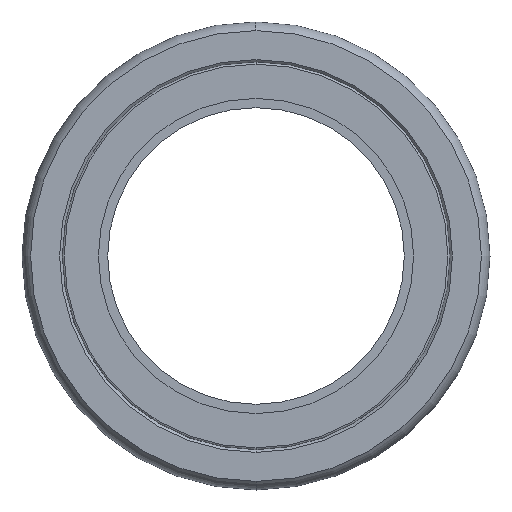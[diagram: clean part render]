
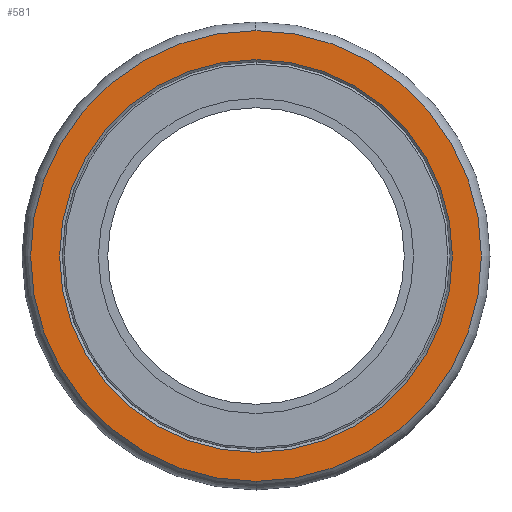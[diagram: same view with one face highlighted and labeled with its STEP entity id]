
A CAD part, front view. The second image highlights one B-rep face of the part: STEP entity #581.
In plain terms, the highlighted planar face has unit normal (0, -1, 0).
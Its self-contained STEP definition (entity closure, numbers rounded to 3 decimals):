
#147=CARTESIAN_POINT('',(0.,2.05,0.));
#148=DIRECTION('',(0.,-1.,0.));
#149=DIRECTION('',(0.,0.,1.));
#150=AXIS2_PLACEMENT_3D('',#147,#148,#149);
#167=CARTESIAN_POINT('',(0.,2.05,0.));
#168=DIRECTION('',(0.,-1.,0.));
#169=DIRECTION('',(0.,0.,-1.));
#170=AXIS2_PLACEMENT_3D('',#167,#168,#169);
#172=CARTESIAN_POINT('',(0.,2.05,0.));
#173=DIRECTION('',(0.,-1.,0.));
#174=DIRECTION('',(0.,0.,1.));
#175=AXIS2_PLACEMENT_3D('',#172,#173,#174);
#258=CARTESIAN_POINT('',(0.,2.05,0.));
#259=DIRECTION('',(0.,-1.,0.));
#260=DIRECTION('',(0.,0.,-1.));
#261=AXIS2_PLACEMENT_3D('',#258,#259,#260);
#300=CARTESIAN_POINT('',(0.,2.05,24.314));
#301=CARTESIAN_POINT('',(0.,2.05,-24.314));
#302=VERTEX_POINT('',#300);
#303=VERTEX_POINT('',#301);
#304=CARTESIAN_POINT('',(0.,2.05,21.186));
#305=CARTESIAN_POINT('',(0.,2.05,-21.186));
#306=VERTEX_POINT('',#304);
#307=VERTEX_POINT('',#305);
#566=CARTESIAN_POINT('',(0.,2.05,0.));
#567=DIRECTION('',(0.,-1.,0.));
#568=DIRECTION('',(-1.,0.,0.));
#569=AXIS2_PLACEMENT_3D('',#566,#567,#568);
#570=PLANE('',#569);
#571=ORIENTED_EDGE('',*,*,#534,.F.);
#572=ORIENTED_EDGE('',*,*,#554,.F.);
#573=EDGE_LOOP('',(#571,#572));
#574=FACE_OUTER_BOUND('',#573,.F.);
#576=ORIENTED_EDGE('',*,*,#575,.T.);
#578=ORIENTED_EDGE('',*,*,#577,.T.);
#579=EDGE_LOOP('',(#576,#578));
#580=FACE_BOUND('',#579,.F.);
#151=CIRCLE('',#150,24.314);
#171=CIRCLE('',#170,24.314);
#176=CIRCLE('',#175,21.186);
#262=CIRCLE('',#261,21.186);
#534=EDGE_CURVE('',#302,#303,#151,.T.);
#554=EDGE_CURVE('',#303,#302,#171,.T.);
#575=EDGE_CURVE('',#306,#307,#176,.T.);
#577=EDGE_CURVE('',#307,#306,#262,.T.);
#581=ADVANCED_FACE('',(#574,#580),#570,.T.);
